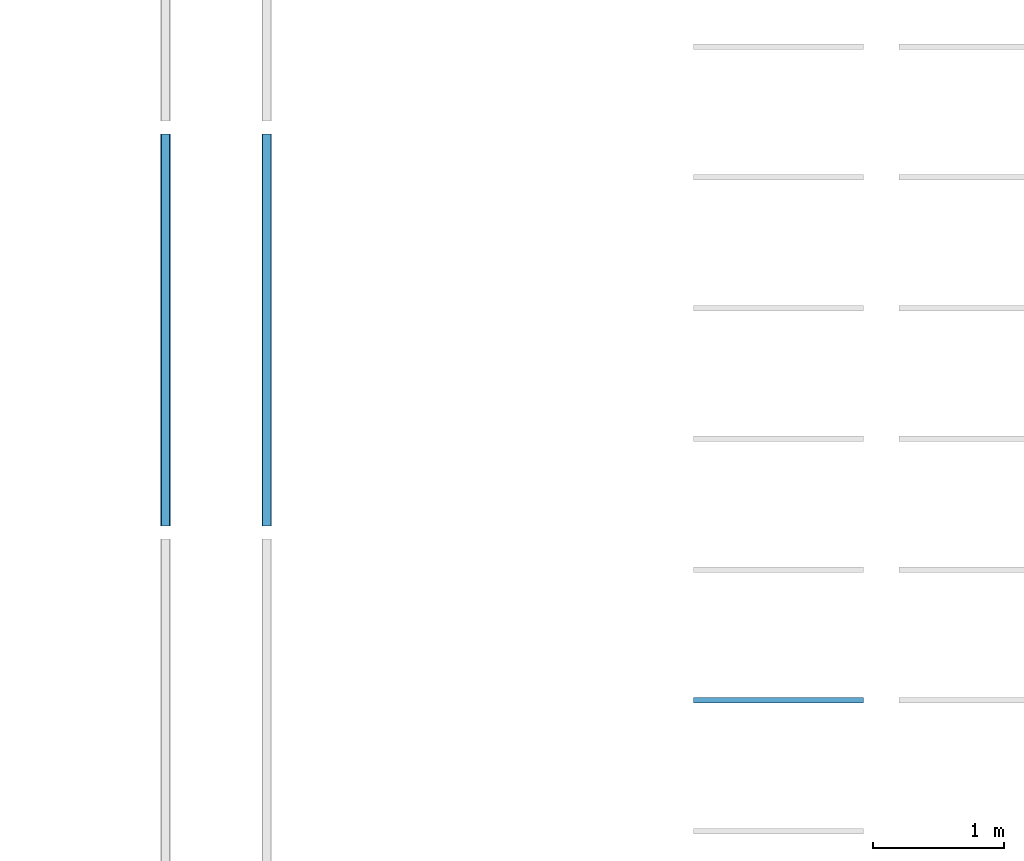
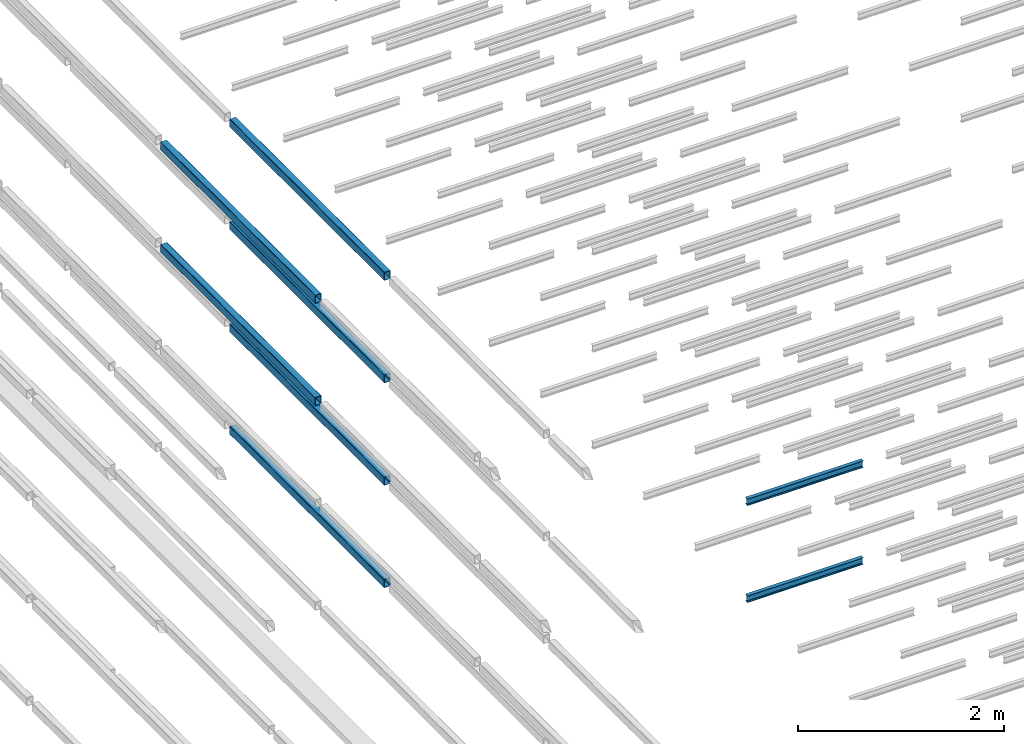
# One storey, part 77 of 290: 8 beams.
"""IFC2X3 building model written with IfcOpenShell, lengths in metres."""

from ifc_helpers import new_model, entity, si_unit, converted_unit, derived_unit, direction, frame, frame_2d, origin, place, context, subcontext, project, spatial, polyline, circle_curve, parameter, trimmed, segment, composite_curve, outline, extrude, material, type_object, element, save


model = new_model("IFC2X3")

# Units and contexts
model_context = context("Model", 3, precision=1e-05, world=origin(), true_north=direction((6.12303176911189e-17, 1.0)))
body_context = subcontext(model_context, "Body", "Model", "MODEL_VIEW")
ifc_project = project(units=[si_unit("LENGTHUNIT", "METRE"), si_unit("AREAUNIT", "SQUARE_METRE"), si_unit("VOLUMEUNIT", "CUBIC_METRE"), converted_unit("PLANEANGLEUNIT", "DEGREE", entity("IfcRatioMeasure", 0.0174532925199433), si_unit("PLANEANGLEUNIT", "RADIAN"), dimensions=[0, 0, 0, 0, 0, 0, 0]), si_unit("MASSUNIT", "GRAM", prefix="KILO"), derived_unit("MASSDENSITYUNIT", [(si_unit("MASSUNIT", "GRAM", prefix="KILO"), 1), (si_unit("LENGTHUNIT", "METRE"), -3)]), derived_unit("MOMENTOFINERTIAUNIT", [(si_unit("LENGTHUNIT", "METRE"), 4)]), si_unit("TIMEUNIT", "SECOND"), si_unit("FREQUENCYUNIT", "HERTZ"), si_unit("THERMODYNAMICTEMPERATUREUNIT", "DEGREE_CELSIUS"), derived_unit("THERMALTRANSMITTANCEUNIT", [(si_unit("MASSUNIT", "GRAM", prefix="KILO"), 1), (si_unit("THERMODYNAMICTEMPERATUREUNIT", "KELVIN"), -1), (si_unit("TIMEUNIT", "SECOND"), -3)]), derived_unit("VOLUMETRICFLOWRATEUNIT", [(si_unit("LENGTHUNIT", "METRE"), 3), (si_unit("TIMEUNIT", "SECOND"), -1)]), si_unit("ELECTRICCURRENTUNIT", "AMPERE"), si_unit("ELECTRICVOLTAGEUNIT", "VOLT"), si_unit("POWERUNIT", "WATT"), si_unit("FORCEUNIT", "NEWTON", prefix="KILO"), si_unit("ILLUMINANCEUNIT", "LUX"), si_unit("LUMINOUSFLUXUNIT", "LUMEN"), si_unit("LUMINOUSINTENSITYUNIT", "CANDELA"), derived_unit("USERDEFINED", [(si_unit("MASSUNIT", "GRAM", prefix="KILO"), -1), (si_unit("LENGTHUNIT", "METRE"), -2), (si_unit("TIMEUNIT", "SECOND"), 3), (si_unit("LUMINOUSFLUXUNIT", "LUMEN"), 1)]), derived_unit("LINEARVELOCITYUNIT", [(si_unit("LENGTHUNIT", "METRE"), 1), (si_unit("TIMEUNIT", "SECOND"), -1)]), si_unit("PRESSUREUNIT", "PASCAL"), derived_unit("USERDEFINED", [(si_unit("LENGTHUNIT", "METRE"), -2), (si_unit("MASSUNIT", "GRAM", prefix="KILO"), 1), (si_unit("TIMEUNIT", "SECOND"), -2)]), derived_unit("LINEARFORCEUNIT", [(si_unit("MASSUNIT", "GRAM", prefix="KILO"), 1), (si_unit("LENGTHUNIT", "METRE"), 1), (si_unit("TIMEUNIT", "SECOND"), -2), (si_unit("LENGTHUNIT", "METRE"), -1)]), derived_unit("PLANARFORCEUNIT", [(si_unit("MASSUNIT", "GRAM", prefix="KILO"), 1), (si_unit("LENGTHUNIT", "METRE"), 1), (si_unit("TIMEUNIT", "SECOND"), -2), (si_unit("LENGTHUNIT", "METRE"), -2)])], contexts=[model_context])

# Site, building, storey
site_placement = place(None, origin())
site = spatial("IfcSite", under=ifc_project, at=site_placement, Name="Default", CompositionType="ELEMENT")
building_placement = place(site_placement, origin())
building = spatial("IfcBuilding", under=site, at=building_placement, CompositionType="ELEMENT")
storey_placement = place(building_placement, frame((0.0, 0.0, 4.0)))
storey = spatial("IfcBuildingStorey", under=building, at=storey_placement, Name="01_OG", CompositionType="ELEMENT", Elevation=4.0)

# Beams
ifc_material_1 = material(Name="Metall - Baustahl S235 blau")
beam_type_1 = type_object("IfcBeamType", Name="RHS Träger (EN 10219-2):RHS 100 x 75 x 5", PredefinedType="NOTDEFINED")
beam_1_placement = place(storey_placement, frame((-175.305111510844, 33.3480889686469, -1.2), z_axis=(0.0, 0.0, 1.0), x_axis=(0.0, 1.0, 0.0)))
element("IfcBeam", 1, at=beam_1_placement, inside=storey, type_object=beam_type_1, material=ifc_material_1, Name="RHS Träger (EN 10219-2):RHS 100 x 75 x 5", ObjectType="RHS Träger (EN 10219-2):RHS 100 x 75 x 5", context=body_context, shape_type="SweptSolid", body=[
    extrude(outline(composite_curve([segment(trimmed(circle_curve(frame_2d((-0.0274999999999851, -0.0400000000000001), x_axis=(1.0, 0.0)), 0.01), [parameter(180.0)], [parameter(270.0)], True, "PARAMETER"), True, "CONTINUOUS"), segment(polyline([(-0.0274999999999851, -0.05), (0.0274999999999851, -0.05)]), True, "CONTINUOUS"), segment(trimmed(circle_curve(frame_2d((0.0274999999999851, -0.0400000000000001), x_axis=(1.0, 0.0)), 0.01), [parameter(270.0)], [parameter(5.08888749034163e-14)], True, "PARAMETER"), True, "CONTINUOUS"), segment(polyline([(0.0375000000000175, -0.0400000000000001), (0.0375000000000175, 0.0400000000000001)]), True, "CONTINUOUS"), segment(trimmed(circle_curve(frame_2d((0.0274999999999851, 0.0400000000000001), x_axis=(1.0, 0.0)), 0.01), [parameter(360.0)], [parameter(89.9999999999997)], True, "PARAMETER"), True, "CONTINUOUS"), segment(polyline([(0.0274999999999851, 0.05), (-0.0274999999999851, 0.05)]), True, "CONTINUOUS"), segment(trimmed(circle_curve(frame_2d((-0.0274999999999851, 0.0400000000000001), x_axis=(1.0, 0.0)), 0.01), [parameter(90.0000000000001)], [parameter(180.0)], True, "PARAMETER"), True, "CONTINUOUS"), segment(polyline([(-0.0374999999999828, 0.0400000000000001), (-0.0374999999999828, -0.0400000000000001)]), True, "CONTINUOUS")], self_intersect=False), holes=[composite_curve([segment(polyline([(0.0274999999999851, -0.0450000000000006), (-0.0274999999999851, -0.0450000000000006)]), True, "CONTINUOUS"), segment(trimmed(circle_curve(frame_2d((-0.0274999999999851, -0.0400000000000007), x_axis=(1.0, 0.0)), 0.005), [parameter(180.0)], [parameter(270.0)], True, "PARAMETER"), False, "CONTINUOUS"), segment(polyline([(-0.0325000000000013, -0.0400000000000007), (-0.0325000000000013, 0.039999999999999)]), True, "CONTINUOUS"), segment(trimmed(circle_curve(frame_2d((-0.0274999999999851, 0.039999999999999), x_axis=(1.0, 0.0)), 0.005), [parameter(90.0000000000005)], [parameter(180.0)], True, "PARAMETER"), False, "CONTINUOUS"), segment(polyline([(-0.0274999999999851, 0.044999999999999), (0.0274999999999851, 0.044999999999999)]), True, "CONTINUOUS"), segment(trimmed(circle_curve(frame_2d((0.0274999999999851, 0.039999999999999), x_axis=(1.0, 0.0)), 0.005), [parameter(0.0)], [parameter(90.0000000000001)], True, "PARAMETER"), False, "CONTINUOUS"), segment(polyline([(0.0325000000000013, 0.039999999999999), (0.0325000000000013, -0.0400000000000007)]), True, "CONTINUOUS"), segment(trimmed(circle_curve(frame_2d((0.0274999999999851, -0.0400000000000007), x_axis=(1.0, 0.0)), 0.005), [parameter(270.0)], [parameter(4.07110999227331e-13)], True, "PARAMETER"), False, "CONTINUOUS")], self_intersect=False)]), frame((9.99999999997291e-05, 0.0375000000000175, -0.0500000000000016), z_axis=(1.0, 0.0, 0.0), x_axis=(0.0, -1.0, 0.0)), (0.0, 0.0, 1.0), 2.9998),
])
beam_2_placement = place(storey_placement, frame((-175.305111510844, 33.3480889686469, 0.0150000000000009), z_axis=(0.0, 0.0, 1.0), x_axis=(0.0, 1.0, 0.0)))
element("IfcBeam", 2, at=beam_2_placement, inside=storey, type_object=beam_type_1, material=ifc_material_1, Name="RHS Träger (EN 10219-2):RHS 100 x 75 x 5", ObjectType="RHS Träger (EN 10219-2):RHS 100 x 75 x 5", context=body_context, shape_type="SweptSolid", body=[
    extrude(outline(composite_curve([segment(trimmed(circle_curve(frame_2d((-0.0274999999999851, -0.0400000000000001), x_axis=(1.0, 0.0)), 0.01), [parameter(180.0)], [parameter(270.0)], True, "PARAMETER"), True, "CONTINUOUS"), segment(polyline([(-0.0274999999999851, -0.05), (0.0274999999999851, -0.05)]), True, "CONTINUOUS"), segment(trimmed(circle_curve(frame_2d((0.0274999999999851, -0.0400000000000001), x_axis=(1.0, 0.0)), 0.01), [parameter(270.0)], [parameter(5.08888749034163e-14)], True, "PARAMETER"), True, "CONTINUOUS"), segment(polyline([(0.0375000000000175, -0.0400000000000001), (0.0375000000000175, 0.0400000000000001)]), True, "CONTINUOUS"), segment(trimmed(circle_curve(frame_2d((0.0274999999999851, 0.0400000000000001), x_axis=(1.0, 0.0)), 0.01), [parameter(360.0)], [parameter(89.9999999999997)], True, "PARAMETER"), True, "CONTINUOUS"), segment(polyline([(0.0274999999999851, 0.05), (-0.0274999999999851, 0.05)]), True, "CONTINUOUS"), segment(trimmed(circle_curve(frame_2d((-0.0274999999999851, 0.0400000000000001), x_axis=(1.0, 0.0)), 0.01), [parameter(90.0000000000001)], [parameter(180.0)], True, "PARAMETER"), True, "CONTINUOUS"), segment(polyline([(-0.0374999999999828, 0.0400000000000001), (-0.0374999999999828, -0.0400000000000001)]), True, "CONTINUOUS")], self_intersect=False), holes=[composite_curve([segment(polyline([(0.0274999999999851, -0.0450000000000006), (-0.0274999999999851, -0.0450000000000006)]), True, "CONTINUOUS"), segment(trimmed(circle_curve(frame_2d((-0.0274999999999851, -0.0400000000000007), x_axis=(1.0, 0.0)), 0.005), [parameter(180.0)], [parameter(270.0)], True, "PARAMETER"), False, "CONTINUOUS"), segment(polyline([(-0.0325000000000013, -0.0400000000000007), (-0.0325000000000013, 0.039999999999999)]), True, "CONTINUOUS"), segment(trimmed(circle_curve(frame_2d((-0.0274999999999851, 0.039999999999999), x_axis=(1.0, 0.0)), 0.005), [parameter(90.0000000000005)], [parameter(180.0)], True, "PARAMETER"), False, "CONTINUOUS"), segment(polyline([(-0.0274999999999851, 0.044999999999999), (0.0274999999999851, 0.044999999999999)]), True, "CONTINUOUS"), segment(trimmed(circle_curve(frame_2d((0.0274999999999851, 0.039999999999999), x_axis=(1.0, 0.0)), 0.005), [parameter(0.0)], [parameter(90.0000000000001)], True, "PARAMETER"), False, "CONTINUOUS"), segment(polyline([(0.0325000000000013, 0.039999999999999), (0.0325000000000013, -0.0400000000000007)]), True, "CONTINUOUS"), segment(trimmed(circle_curve(frame_2d((0.0274999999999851, -0.0400000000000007), x_axis=(1.0, 0.0)), 0.005), [parameter(270.0)], [parameter(4.07110999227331e-13)], True, "PARAMETER"), False, "CONTINUOUS")], self_intersect=False)]), frame((9.99999999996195e-05, 0.0375000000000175, -0.0500000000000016), z_axis=(1.0, 0.0, 0.0), x_axis=(0.0, -1.0, 0.0)), (0.0, 0.0, 1.0), 2.9998),
])
beam_3_placement = place(storey_placement, frame((-175.305111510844, 33.3480889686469, 1.23), z_axis=(0.0, 0.0, 1.0), x_axis=(0.0, 1.0, 0.0)))
element("IfcBeam", 3, at=beam_3_placement, inside=storey, type_object=beam_type_1, material=ifc_material_1, Name="RHS Träger (EN 10219-2):RHS 100 x 75 x 5", ObjectType="RHS Träger (EN 10219-2):RHS 100 x 75 x 5", context=body_context, shape_type="SweptSolid", body=[
    extrude(outline(composite_curve([segment(trimmed(circle_curve(frame_2d((-0.0274999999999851, -0.0399999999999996), x_axis=(1.0, 0.0)), 0.01), [parameter(180.0)], [parameter(270.0)], True, "PARAMETER"), True, "CONTINUOUS"), segment(polyline([(-0.0274999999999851, -0.0499999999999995), (0.0274999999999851, -0.0499999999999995)]), True, "CONTINUOUS"), segment(trimmed(circle_curve(frame_2d((0.0274999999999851, -0.0399999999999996), x_axis=(1.0, 0.0)), 0.01), [parameter(270.0)], [parameter(5.08888749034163e-14)], True, "PARAMETER"), True, "CONTINUOUS"), segment(polyline([(0.0375000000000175, -0.0399999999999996), (0.0375000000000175, 0.0399999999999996)]), True, "CONTINUOUS"), segment(trimmed(circle_curve(frame_2d((0.0274999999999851, 0.0399999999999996), x_axis=(1.0, 0.0)), 0.01), [parameter(360.0)], [parameter(89.9999999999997)], True, "PARAMETER"), True, "CONTINUOUS"), segment(polyline([(0.0274999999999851, 0.0500000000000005), (-0.0274999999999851, 0.0500000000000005)]), True, "CONTINUOUS"), segment(trimmed(circle_curve(frame_2d((-0.0274999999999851, 0.0399999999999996), x_axis=(1.0, 0.0)), 0.01), [parameter(90.0000000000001)], [parameter(180.0)], True, "PARAMETER"), True, "CONTINUOUS"), segment(polyline([(-0.0374999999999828, 0.0399999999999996), (-0.0374999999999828, -0.0399999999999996)]), True, "CONTINUOUS")], self_intersect=False), holes=[composite_curve([segment(polyline([(0.0274999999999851, -0.0450000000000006), (-0.0274999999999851, -0.0450000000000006)]), True, "CONTINUOUS"), segment(trimmed(circle_curve(frame_2d((-0.0274999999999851, -0.0400000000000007), x_axis=(1.0, 0.0)), 0.005), [parameter(180.0)], [parameter(270.0)], True, "PARAMETER"), False, "CONTINUOUS"), segment(polyline([(-0.0325000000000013, -0.0400000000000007), (-0.0325000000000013, 0.0399999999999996)]), True, "CONTINUOUS"), segment(trimmed(circle_curve(frame_2d((-0.0274999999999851, 0.0399999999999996), x_axis=(1.0, 0.0)), 0.005), [parameter(90.0000000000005)], [parameter(180.0)], True, "PARAMETER"), False, "CONTINUOUS"), segment(polyline([(-0.0274999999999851, 0.0449999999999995), (0.0274999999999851, 0.0449999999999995)]), True, "CONTINUOUS"), segment(trimmed(circle_curve(frame_2d((0.0274999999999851, 0.0399999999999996), x_axis=(1.0, 0.0)), 0.005), [parameter(0.0)], [parameter(90.0000000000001)], True, "PARAMETER"), False, "CONTINUOUS"), segment(polyline([(0.0325000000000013, 0.0399999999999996), (0.0325000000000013, -0.0400000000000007)]), True, "CONTINUOUS"), segment(trimmed(circle_curve(frame_2d((0.0274999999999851, -0.0400000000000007), x_axis=(1.0, 0.0)), 0.005), [parameter(270.0)], [parameter(4.07110999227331e-13)], True, "PARAMETER"), False, "CONTINUOUS")], self_intersect=False)]), frame((9.99999999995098e-05, 0.0375000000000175, -0.0500000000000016), z_axis=(1.0, 0.0, 0.0), x_axis=(0.0, -1.0, 0.0)), (0.0, 0.0, 1.0), 2.9998),
])
beam_4_placement = place(storey_placement, frame((-175.305111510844, 33.3480889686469, 2.445), z_axis=(0.0, 0.0, 1.0), x_axis=(0.0, 1.0, 0.0)))
element("IfcBeam", 4, at=beam_4_placement, inside=storey, type_object=beam_type_1, material=ifc_material_1, Name="RHS Träger (EN 10219-2):RHS 100 x 75 x 5", ObjectType="RHS Träger (EN 10219-2):RHS 100 x 75 x 5", context=body_context, shape_type="SweptSolid", body=[
    extrude(outline(composite_curve([segment(trimmed(circle_curve(frame_2d((-0.0274999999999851, -0.0399999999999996), x_axis=(1.0, 0.0)), 0.01), [parameter(180.0)], [parameter(270.0)], True, "PARAMETER"), True, "CONTINUOUS"), segment(polyline([(-0.0274999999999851, -0.0499999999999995), (0.0274999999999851, -0.0499999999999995)]), True, "CONTINUOUS"), segment(trimmed(circle_curve(frame_2d((0.0274999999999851, -0.0399999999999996), x_axis=(1.0, 0.0)), 0.01), [parameter(270.0)], [parameter(5.08888749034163e-14)], True, "PARAMETER"), True, "CONTINUOUS"), segment(polyline([(0.0375000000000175, -0.0399999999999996), (0.0375000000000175, 0.0399999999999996)]), True, "CONTINUOUS"), segment(trimmed(circle_curve(frame_2d((0.0274999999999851, 0.0399999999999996), x_axis=(1.0, 0.0)), 0.01), [parameter(360.0)], [parameter(89.9999999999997)], True, "PARAMETER"), True, "CONTINUOUS"), segment(polyline([(0.0274999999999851, 0.0500000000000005), (-0.0274999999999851, 0.0500000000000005)]), True, "CONTINUOUS"), segment(trimmed(circle_curve(frame_2d((-0.0274999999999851, 0.0399999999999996), x_axis=(1.0, 0.0)), 0.01), [parameter(90.0000000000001)], [parameter(180.0)], True, "PARAMETER"), True, "CONTINUOUS"), segment(polyline([(-0.0374999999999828, 0.0399999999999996), (-0.0374999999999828, -0.0399999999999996)]), True, "CONTINUOUS")], self_intersect=False), holes=[composite_curve([segment(polyline([(0.0274999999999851, -0.0450000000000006), (-0.0274999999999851, -0.0450000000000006)]), True, "CONTINUOUS"), segment(trimmed(circle_curve(frame_2d((-0.0274999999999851, -0.0400000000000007), x_axis=(1.0, 0.0)), 0.005), [parameter(180.0)], [parameter(270.0)], True, "PARAMETER"), False, "CONTINUOUS"), segment(polyline([(-0.0325000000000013, -0.0400000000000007), (-0.0325000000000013, 0.0399999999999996)]), True, "CONTINUOUS"), segment(trimmed(circle_curve(frame_2d((-0.0274999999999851, 0.0399999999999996), x_axis=(1.0, 0.0)), 0.005), [parameter(90.0000000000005)], [parameter(180.0)], True, "PARAMETER"), False, "CONTINUOUS"), segment(polyline([(-0.0274999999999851, 0.0449999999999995), (0.0274999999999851, 0.0449999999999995)]), True, "CONTINUOUS"), segment(trimmed(circle_curve(frame_2d((0.0274999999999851, 0.0399999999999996), x_axis=(1.0, 0.0)), 0.005), [parameter(0.0)], [parameter(90.0000000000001)], True, "PARAMETER"), False, "CONTINUOUS"), segment(polyline([(0.0325000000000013, 0.0399999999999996), (0.0325000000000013, -0.0400000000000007)]), True, "CONTINUOUS"), segment(trimmed(circle_curve(frame_2d((0.0274999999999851, -0.0400000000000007), x_axis=(1.0, 0.0)), 0.005), [parameter(270.0)], [parameter(4.07110999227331e-13)], True, "PARAMETER"), False, "CONTINUOUS")], self_intersect=False)]), frame((9.99999999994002e-05, 0.0375000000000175, -0.0500000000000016), z_axis=(1.0, 0.0, 0.0), x_axis=(0.0, -1.0, 0.0)), (0.0, 0.0, 1.0), 2.9998),
])
beam_5_placement = place(storey_placement, frame((-176.155111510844, 33.3480889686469, 1.23), z_axis=(0.0, 0.0, 1.0), x_axis=(0.0, 1.0, 0.0)))
element("IfcBeam", 5, at=beam_5_placement, inside=storey, type_object=beam_type_1, material=ifc_material_1, Name="RHS Träger (EN 10219-2):RHS 100 x 75 x 5", ObjectType="RHS Träger (EN 10219-2):RHS 100 x 75 x 5", context=body_context, shape_type="SweptSolid", body=[
    extrude(outline(composite_curve([segment(polyline([(-0.0399999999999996, -0.0374999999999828), (0.0399999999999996, -0.0374999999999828)]), True, "CONTINUOUS"), segment(trimmed(circle_curve(frame_2d((0.0399999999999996, -0.0274999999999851), x_axis=(0.0, 1.0)), 0.01), [parameter(180.0)], [parameter(270.0)], True, "PARAMETER"), True, "CONTINUOUS"), segment(polyline([(0.0500000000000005, -0.0274999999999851), (0.0500000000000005, 0.0274999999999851)]), True, "CONTINUOUS"), segment(trimmed(circle_curve(frame_2d((0.0399999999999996, 0.0274999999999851), x_axis=(0.0, 1.0)), 0.01), [parameter(270.0)], [parameter(4.07110999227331e-13)], True, "PARAMETER"), True, "CONTINUOUS"), segment(polyline([(0.0399999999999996, 0.0375000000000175), (-0.0399999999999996, 0.0375000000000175)]), True, "CONTINUOUS"), segment(trimmed(circle_curve(frame_2d((-0.0399999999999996, 0.0274999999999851), x_axis=(0.0, 1.0)), 0.01), [parameter(360.0)], [parameter(90.0000000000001)], True, "PARAMETER"), True, "CONTINUOUS"), segment(polyline([(-0.0499999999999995, 0.0274999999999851), (-0.0499999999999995, -0.0274999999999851)]), True, "CONTINUOUS"), segment(trimmed(circle_curve(frame_2d((-0.0399999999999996, -0.0274999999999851), x_axis=(0.0, 1.0)), 0.01), [parameter(90.0000000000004)], [parameter(180.0)], True, "PARAMETER"), True, "CONTINUOUS")], self_intersect=False), holes=[composite_curve([segment(trimmed(circle_curve(frame_2d((-0.0400000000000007, 0.0274999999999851), x_axis=(0.0, 1.0)), 0.005), [parameter(360.0)], [parameter(89.9999999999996)], True, "PARAMETER"), False, "CONTINUOUS"), segment(polyline([(-0.0400000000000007, 0.0325000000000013), (0.0399999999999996, 0.0325000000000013)]), True, "CONTINUOUS"), segment(trimmed(circle_curve(frame_2d((0.0399999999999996, 0.0274999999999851), x_axis=(0.0, 1.0)), 0.005), [parameter(270.0)], [parameter(0.0)], True, "PARAMETER"), False, "CONTINUOUS"), segment(polyline([(0.0449999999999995, 0.0274999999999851), (0.0449999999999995, -0.0274999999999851)]), True, "CONTINUOUS"), segment(trimmed(circle_curve(frame_2d((0.0399999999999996, -0.0274999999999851), x_axis=(0.0, 1.0)), 0.005), [parameter(180.0)], [parameter(269.999999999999)], True, "PARAMETER"), False, "CONTINUOUS"), segment(polyline([(0.0399999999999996, -0.0325000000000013), (-0.0400000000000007, -0.0325000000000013)]), True, "CONTINUOUS"), segment(trimmed(circle_curve(frame_2d((-0.0400000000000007, -0.0274999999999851), x_axis=(0.0, 1.0)), 0.005), [parameter(90.0000000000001)], [parameter(180.0)], True, "PARAMETER"), False, "CONTINUOUS"), segment(polyline([(-0.0450000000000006, -0.0274999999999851), (-0.0450000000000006, 0.0274999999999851)]), True, "CONTINUOUS")], self_intersect=False)]), frame((9.99999999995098e-05, -0.0375000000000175, -0.0500000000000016), z_axis=(1.0, 0.0, 0.0), x_axis=(0.0, 0.0, -1.0)), (0.0, 0.0, 1.0), 2.9998),
])
beam_6_placement = place(storey_placement, frame((-176.155111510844, 33.3480889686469, 2.445), z_axis=(0.0, 0.0, 1.0), x_axis=(0.0, 1.0, 0.0)))
element("IfcBeam", 6, at=beam_6_placement, inside=storey, type_object=beam_type_1, material=ifc_material_1, Name="RHS Träger (EN 10219-2):RHS 100 x 75 x 5", ObjectType="RHS Träger (EN 10219-2):RHS 100 x 75 x 5", context=body_context, shape_type="SweptSolid", body=[
    extrude(outline(composite_curve([segment(polyline([(-0.0399999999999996, -0.0374999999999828), (0.0399999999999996, -0.0374999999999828)]), True, "CONTINUOUS"), segment(trimmed(circle_curve(frame_2d((0.0399999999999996, -0.0274999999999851), x_axis=(0.0, 1.0)), 0.01), [parameter(180.0)], [parameter(270.0)], True, "PARAMETER"), True, "CONTINUOUS"), segment(polyline([(0.0500000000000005, -0.0274999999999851), (0.0500000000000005, 0.0274999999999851)]), True, "CONTINUOUS"), segment(trimmed(circle_curve(frame_2d((0.0399999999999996, 0.0274999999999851), x_axis=(0.0, 1.0)), 0.01), [parameter(270.0)], [parameter(4.07110999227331e-13)], True, "PARAMETER"), True, "CONTINUOUS"), segment(polyline([(0.0399999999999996, 0.0375000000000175), (-0.0399999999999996, 0.0375000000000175)]), True, "CONTINUOUS"), segment(trimmed(circle_curve(frame_2d((-0.0399999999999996, 0.0274999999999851), x_axis=(0.0, 1.0)), 0.01), [parameter(360.0)], [parameter(90.0000000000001)], True, "PARAMETER"), True, "CONTINUOUS"), segment(polyline([(-0.0499999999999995, 0.0274999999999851), (-0.0499999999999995, -0.0274999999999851)]), True, "CONTINUOUS"), segment(trimmed(circle_curve(frame_2d((-0.0399999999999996, -0.0274999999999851), x_axis=(0.0, 1.0)), 0.01), [parameter(90.0000000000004)], [parameter(180.0)], True, "PARAMETER"), True, "CONTINUOUS")], self_intersect=False), holes=[composite_curve([segment(trimmed(circle_curve(frame_2d((-0.0400000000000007, 0.0274999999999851), x_axis=(0.0, 1.0)), 0.005), [parameter(360.0)], [parameter(89.9999999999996)], True, "PARAMETER"), False, "CONTINUOUS"), segment(polyline([(-0.0400000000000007, 0.0325000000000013), (0.0399999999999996, 0.0325000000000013)]), True, "CONTINUOUS"), segment(trimmed(circle_curve(frame_2d((0.0399999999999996, 0.0274999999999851), x_axis=(0.0, 1.0)), 0.005), [parameter(270.0)], [parameter(0.0)], True, "PARAMETER"), False, "CONTINUOUS"), segment(polyline([(0.0449999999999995, 0.0274999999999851), (0.0449999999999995, -0.0274999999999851)]), True, "CONTINUOUS"), segment(trimmed(circle_curve(frame_2d((0.0399999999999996, -0.0274999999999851), x_axis=(0.0, 1.0)), 0.005), [parameter(180.0)], [parameter(269.999999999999)], True, "PARAMETER"), False, "CONTINUOUS"), segment(polyline([(0.0399999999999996, -0.0325000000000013), (-0.0400000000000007, -0.0325000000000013)]), True, "CONTINUOUS"), segment(trimmed(circle_curve(frame_2d((-0.0400000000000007, -0.0274999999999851), x_axis=(0.0, 1.0)), 0.005), [parameter(90.0000000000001)], [parameter(180.0)], True, "PARAMETER"), False, "CONTINUOUS"), segment(polyline([(-0.0450000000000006, -0.0274999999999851), (-0.0450000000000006, 0.0274999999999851)]), True, "CONTINUOUS")], self_intersect=False)]), frame((9.99999999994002e-05, -0.0375000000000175, -0.0500000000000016), z_axis=(1.0, 0.0, 0.0), x_axis=(0.0, 0.0, -1.0)), (0.0, 0.0, 1.0), 2.9998),
])
ifc_material_2 = material(Name="Metall - Baustahl S235")
beam_type_2 = type_object("IfcBeamType", Name="IPN Träger:IPN 80", PredefinedType="NOTDEFINED")
beam_7_placement = place(storey_placement, frame((-170.780111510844, 32.036588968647, -1.73), z_axis=(0.0, 0.0, 1.0), x_axis=(-1.0, 0.0, 0.0)))
element("IfcBeam", 7, at=beam_7_placement, inside=storey, type_object=beam_type_2, material=ifc_material_2, Name="IPN Träger:IPN 80", ObjectType="IPN Träger:IPN 80", context=body_context, shape_type="SweptSolid", body=[
    extrude(outline(composite_curve([segment(polyline([(0.0375704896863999, -0.0210000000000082), (0.0399999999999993, -0.0210000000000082)]), True, "CONTINUOUS"), segment(polyline([(0.0399999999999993, -0.0210000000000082), (0.0399999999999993, 0.0209999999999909)]), True, "CONTINUOUS"), segment(polyline([(0.0399999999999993, 0.0209999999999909), (0.0375704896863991, 0.0209999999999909)]), True, "CONTINUOUS"), segment(trimmed(circle_curve(frame_2d((0.0375704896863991, 0.0186999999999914), x_axis=(0.0, 1.0)), 0.00230000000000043), [parameter(0.0)], [parameter(82.0299999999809)], True, "PARAMETER"), True, "CONTINUOUS"), segment(polyline([(0.0352927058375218, 0.019018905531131), (0.0333732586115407, 0.00530924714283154)]), True, "CONTINUOUS"), segment(trimmed(circle_curve(frame_2d((0.0295109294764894, 0.00584999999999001), x_axis=(0.990340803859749, -0.138654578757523)), 0.00389999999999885), [parameter(277.969999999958)], [parameter(0.0)], True, "PARAMETER"), False, "CONTINUOUS"), segment(polyline([(0.0295109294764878, 0.00194999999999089), (-0.0295109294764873, 0.00194999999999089)]), True, "CONTINUOUS"), segment(trimmed(circle_curve(frame_2d((-0.0295109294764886, 0.00584999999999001), x_axis=(0.0, -1.0)), 0.00389999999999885), [parameter(277.969999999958)], [parameter(0.0)], True, "PARAMETER"), False, "CONTINUOUS"), segment(polyline([(-0.0333732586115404, 0.00530924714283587), (-0.0352927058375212, 0.0190189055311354)]), True, "CONTINUOUS"), segment(trimmed(circle_curve(frame_2d((-0.0375704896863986, 0.0186999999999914), x_axis=(0.990340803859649, 0.138654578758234)), 0.00230000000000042), [parameter(0.0)], [parameter(82.0299999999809)], True, "PARAMETER"), True, "CONTINUOUS"), segment(polyline([(-0.0375704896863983, 0.0209999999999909), (-0.0400000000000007, 0.0209999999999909)]), True, "CONTINUOUS"), segment(polyline([(-0.0400000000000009, 0.0209999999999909), (-0.0400000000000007, -0.0210000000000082)]), True, "CONTINUOUS"), segment(polyline([(-0.0400000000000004, -0.0210000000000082), (-0.0375704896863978, -0.0210000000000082)]), True, "CONTINUOUS"), segment(trimmed(circle_curve(frame_2d((-0.0375704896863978, -0.0187000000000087), x_axis=(0.0, -1.0)), 0.00230000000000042), [parameter(0.0)], [parameter(82.0299999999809)], True, "PARAMETER"), True, "CONTINUOUS"), segment(polyline([(-0.0352927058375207, -0.0190189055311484), (-0.0333732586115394, -0.0053092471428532)]), True, "CONTINUOUS"), segment(trimmed(circle_curve(frame_2d((-0.0295109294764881, -0.00585000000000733), x_axis=(-0.990340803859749, 0.138654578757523)), 0.00389999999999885), [parameter(277.969999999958)], [parameter(0.0)], True, "PARAMETER"), False, "CONTINUOUS"), segment(polyline([(-0.0295109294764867, -0.00195000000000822), (0.0295109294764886, -0.00195000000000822)]), True, "CONTINUOUS"), segment(trimmed(circle_curve(frame_2d((0.0295109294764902, -0.00585000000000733), x_axis=(0.0, 1.0)), 0.0038999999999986), [parameter(277.969999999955)], [parameter(0.0)], True, "PARAMETER"), False, "CONTINUOUS"), segment(polyline([(0.0333732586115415, -0.0053092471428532), (0.0352927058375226, -0.0190189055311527)]), True, "CONTINUOUS"), segment(trimmed(circle_curve(frame_2d((0.0375704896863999, -0.0187000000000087), x_axis=(-0.990340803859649, -0.138654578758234)), 0.00230000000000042), [parameter(0.0)], [parameter(82.0299999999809)], True, "PARAMETER"), True, "CONTINUOUS")], self_intersect=False)), frame((0.00010000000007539, 0.0210000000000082, -0.0400000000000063), z_axis=(1.0, 0.0, 0.0), x_axis=(0.0, 0.0, -1.0)), (0.0, 0.0, 1.0), 1.29990000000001),
])
beam_8_placement = place(storey_placement, frame((-170.780111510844, 32.036588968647, -0.579999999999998), z_axis=(0.0, 0.0, 1.0), x_axis=(-1.0, 0.0, 0.0)))
element("IfcBeam", 8, at=beam_8_placement, inside=storey, type_object=beam_type_2, material=ifc_material_2, Name="IPN Träger:IPN 80", ObjectType="IPN Träger:IPN 80", context=body_context, shape_type="SweptSolid", body=[
    extrude(outline(composite_curve([segment(polyline([(0.0375704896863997, -0.0210000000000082), (0.039999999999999, -0.0210000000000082)]), True, "CONTINUOUS"), segment(polyline([(0.039999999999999, -0.0210000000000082), (0.039999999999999, 0.0209999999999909)]), True, "CONTINUOUS"), segment(polyline([(0.039999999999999, 0.0209999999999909), (0.0375704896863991, 0.0209999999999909)]), True, "CONTINUOUS"), segment(trimmed(circle_curve(frame_2d((0.0375704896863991, 0.0186999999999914), x_axis=(0.0, 1.0)), 0.00230000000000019), [parameter(0.0)], [parameter(82.02999999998)], True, "PARAMETER"), True, "CONTINUOUS"), segment(polyline([(0.0352927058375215, 0.019018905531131), (0.0333732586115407, 0.00530924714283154)]), True, "CONTINUOUS"), segment(trimmed(circle_curve(frame_2d((0.0295109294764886, 0.00584999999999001), x_axis=(0.990340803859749, -0.138654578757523)), 0.00389999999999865), [parameter(277.969999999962)], [parameter(0.0)], True, "PARAMETER"), False, "CONTINUOUS"), segment(polyline([(0.0295109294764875, 0.00194999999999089), (-0.0295109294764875, 0.00194999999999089)]), True, "CONTINUOUS"), segment(trimmed(circle_curve(frame_2d((-0.0295109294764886, 0.00584999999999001), x_axis=(0.0, -1.0)), 0.00389999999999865), [parameter(277.969999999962)], [parameter(0.0)], True, "PARAMETER"), False, "CONTINUOUS"), segment(polyline([(-0.0333732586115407, 0.00530924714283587), (-0.0352927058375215, 0.0190189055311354)]), True, "CONTINUOUS"), segment(trimmed(circle_curve(frame_2d((-0.0375704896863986, 0.0186999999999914), x_axis=(0.990340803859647, 0.138654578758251)), 0.00230000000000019), [parameter(0.0)], [parameter(82.02999999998)], True, "PARAMETER"), True, "CONTINUOUS"), segment(polyline([(-0.0375704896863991, 0.0209999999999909), (-0.0400000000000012, 0.0209999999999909)]), True, "CONTINUOUS"), segment(polyline([(-0.0400000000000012, 0.0209999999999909), (-0.0400000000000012, -0.0210000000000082)]), True, "CONTINUOUS"), segment(polyline([(-0.0400000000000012, -0.0210000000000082), (-0.037570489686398, -0.0210000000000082)]), True, "CONTINUOUS"), segment(trimmed(circle_curve(frame_2d((-0.037570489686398, -0.0187000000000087), x_axis=(0.0, -1.0)), 0.00230000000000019), [parameter(0.0)], [parameter(82.02999999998)], True, "PARAMETER"), True, "CONTINUOUS"), segment(polyline([(-0.035292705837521, -0.0190189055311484), (-0.0333732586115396, -0.0053092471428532)]), True, "CONTINUOUS"), segment(trimmed(circle_curve(frame_2d((-0.0295109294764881, -0.00585000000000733), x_axis=(-0.990340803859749, 0.138654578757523)), 0.00389999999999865), [parameter(277.969999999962)], [parameter(0.0)], True, "PARAMETER"), False, "CONTINUOUS"), segment(polyline([(-0.029510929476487, -0.00195000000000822), (0.0295109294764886, -0.00195000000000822)]), True, "CONTINUOUS"), segment(trimmed(circle_curve(frame_2d((0.0295109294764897, -0.00585000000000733), x_axis=(0.0, 1.0)), 0.00389999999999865), [parameter(277.969999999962)], [parameter(0.0)], True, "PARAMETER"), False, "CONTINUOUS"), segment(polyline([(0.0333732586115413, -0.0053092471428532), (0.0352927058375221, -0.0190189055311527)]), True, "CONTINUOUS"), segment(trimmed(circle_curve(frame_2d((0.0375704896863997, -0.0187000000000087), x_axis=(-0.990340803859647, -0.138654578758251)), 0.00230000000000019), [parameter(0.0)], [parameter(82.02999999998)], True, "PARAMETER"), True, "CONTINUOUS")], self_intersect=False)), frame((0.000100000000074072, 0.0210000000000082, -0.0400000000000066), z_axis=(1.0, 0.0, 0.0), x_axis=(0.0, 0.0, -1.0)), (0.0, 0.0, 1.0), 1.29990000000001),
])

save(model, "model.ifc")
